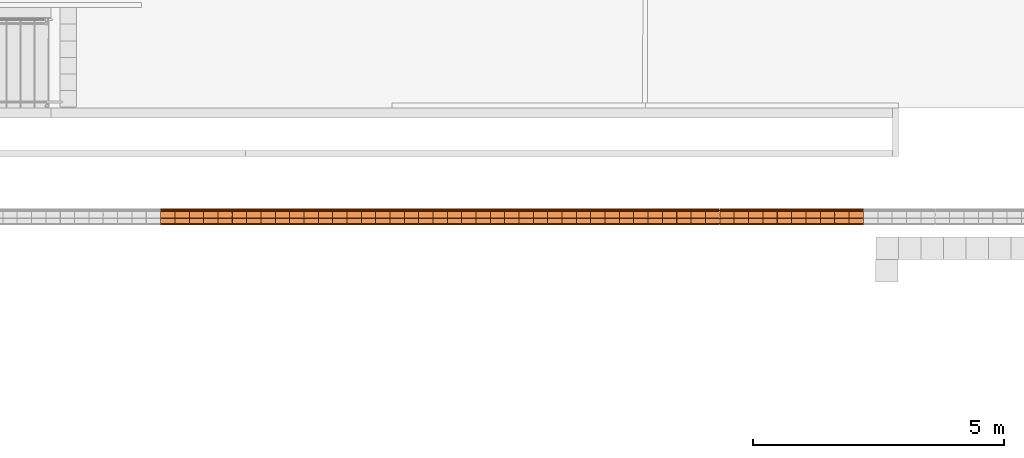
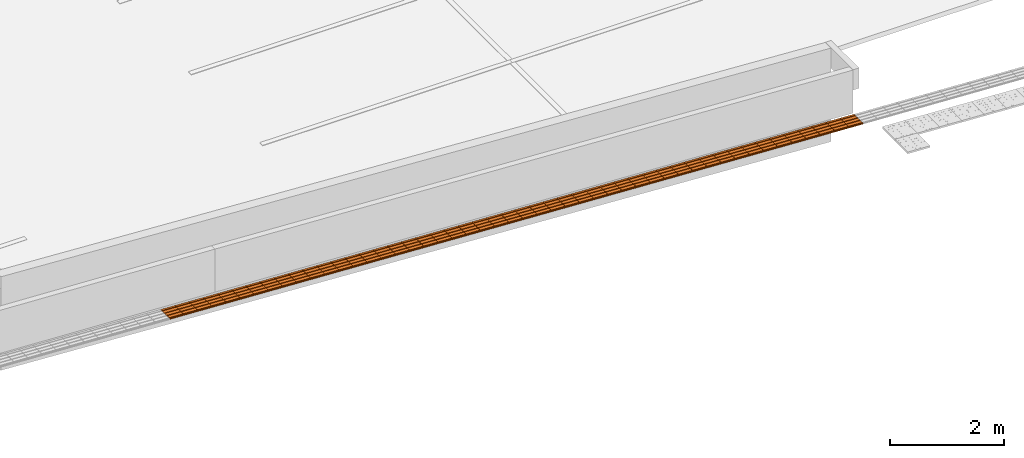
# One storey, part 187 of 237: 49 proxies.
"""IFC2X3 building model written with IfcOpenShell, lengths in millimetres."""

from ifc_helpers import new_model, entity, si_unit, converted_unit, derived_unit, money_unit, direction, frame, origin_with_axes, place, context, subcontext, project, spatial, open_shell, surface_model, source, transform, mapped, type_object, element, save


model = new_model("IFC2X3")

# Units and contexts
model_context = context("Model", 3, precision=0.01, world=origin_with_axes(), true_north=direction((0.0, 1.0)))
body_context = subcontext(model_context, "Body", "Model", "MODEL_VIEW")
ifc_project = project(units=[si_unit("LENGTHUNIT", "METRE", prefix="MILLI"), si_unit("AREAUNIT", "SQUARE_METRE"), si_unit("VOLUMEUNIT", "CUBIC_METRE"), converted_unit("PLANEANGLEUNIT", "DEGREE", entity("IfcPlaneAngleMeasure", 0.0174532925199), si_unit("PLANEANGLEUNIT", "RADIAN"), dimensions=[0, 0, 0, 0, 0, 0, 0]), money_unit("USD"), converted_unit("TIMEUNIT", "Year", entity("IfcTimeMeasure", 31556926.0), si_unit("TIMEUNIT", "SECOND"), dimensions=[0, 0, 1, 0, 0, 0, 0]), si_unit("MASSUNIT", "GRAM", prefix="KILO"), si_unit("THERMODYNAMICTEMPERATUREUNIT", "DEGREE_CELSIUS"), si_unit("LUMINOUSINTENSITYUNIT", "LUMEN"), si_unit("ENERGYUNIT", "JOULE", prefix="MEGA"), derived_unit("THERMALCONDUCTANCEUNIT", [(si_unit("POWERUNIT", "WATT"), 1), (si_unit("LENGTHUNIT", "METRE"), -1), (si_unit("THERMODYNAMICTEMPERATUREUNIT", "KELVIN"), -1)]), derived_unit("SPECIFICHEATCAPACITYUNIT", [(si_unit("ENERGYUNIT", "JOULE"), 1), (si_unit("MASSUNIT", "GRAM", prefix="KILO"), -1), (si_unit("THERMODYNAMICTEMPERATUREUNIT", "KELVIN"), -1)]), derived_unit("MASSDENSITYUNIT", [(si_unit("MASSUNIT", "GRAM", prefix="KILO"), 1), (si_unit("VOLUMEUNIT", "CUBIC_METRE"), -1)])], contexts=[model_context])

# Site, building, storey
site_placement = place(None, origin_with_axes())
site = spatial("IfcSite", under=ifc_project, at=site_placement, Name="Local", CompositionType="ELEMENT")
building_placement = place(site_placement, origin_with_axes())
building = spatial("IfcBuilding", under=site, at=building_placement, Name="Construção", CompositionType="ELEMENT")
storey_placement = place(building_placement, origin_with_axes())
storey = spatial("IfcBuildingStorey", under=building, at=storey_placement, Name="Pavimento Térreo", CompositionType="ELEMENT", Elevation=0.0)

# Proxies
building_element_proxy_type = type_object("IfcBuildingElementProxyType", Name="Piso Direcional 27", PredefinedType="NOTDEFINED")
shared_shape = source(origin_with_axes(), body_context, "Body", "SurfaceModel", [
    surface_model("IfcShellBasedSurfaceModel", [(-0.210134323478, -47.258225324, 4.02303628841), (285.108160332, -47.258225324, 18.9260007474), (284.760415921, -41.665004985, 25.5835917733), (-0.557878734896, -41.665004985, 10.6806273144)], [open_shell([[[0, 1, 2, 3]]])]),
    surface_model("IfcShellBasedSurfaceModel", [(285.803649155, -153.529411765, 5.61081869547), (285.803649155, 176.470588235, 5.61081869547), (285.108160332, 176.470588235, 18.9260007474), (285.108160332, 154.097706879, 18.9260007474), (284.760415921, 148.50448654, 25.5835917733), (284.760415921, 126.131605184, 25.5835917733), (285.108160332, 120.538384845, 18.9260007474), (285.108160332, 70.1994017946, 18.9260007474), (284.760415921, 64.6061814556, 25.5835917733), (284.760415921, 42.2333000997, 25.5835917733), (285.108160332, 36.6400797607, 18.9260007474), (285.108160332, -13.6989032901, 18.9260007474), (284.760415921, -19.2921236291, 25.5835917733), (284.760415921, -41.665004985, 25.5835917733), (285.108160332, -47.258225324, 18.9260007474), (285.108160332, -97.5972083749, 18.9260007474), (284.760415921, -103.190428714, 25.5835917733), (284.760415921, -125.56331007, 25.5835917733), (285.108160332, -131.156530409, 18.9260007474), (285.108160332, -153.529411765, 18.9260007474)], [open_shell([[[0, 1, 2, 3, 4, 5, 6, 7, 8, 9, 10, 11, 12, 13, 14, 15, 16, 17, 18, 19]]])]),
    surface_model("IfcShellBasedSurfaceModel", [(-0.557878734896, -19.2921236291, 10.6806273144), (284.760415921, -19.2921236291, 25.5835917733), (285.108160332, -13.6989032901, 18.9260007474), (-0.210134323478, -13.6989032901, 4.02303628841)], [open_shell([[[0, 1, 2, 3]]])]),
    surface_model("IfcShellBasedSurfaceModel", [(-0.557878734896, -103.190428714, 10.6806273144), (284.760415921, -103.190428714, 25.5835917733), (285.108160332, -97.5972083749, 18.9260007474), (-0.210134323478, -97.5972083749, 4.02303628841)], [open_shell([[[0, 1, 2, 3]]])]),
    surface_model("IfcShellBasedSurfaceModel", [(-0.557878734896, 64.6061814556, 10.6806273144), (284.760415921, 64.6061814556, 25.5835917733), (285.108160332, 70.1994017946, 18.9260007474), (-0.210134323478, 70.1994017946, 4.02303628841)], [open_shell([[[0, 1, 2, 3]]])]),
    surface_model("IfcShellBasedSurfaceModel", [(-0.210134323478, 36.6400797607, 4.02303628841), (285.108160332, 36.6400797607, 18.9260007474), (284.760415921, 42.2333000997, 25.5835917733), (-0.557878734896, 42.2333000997, 10.6806273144)], [open_shell([[[0, 1, 2, 3]]])]),
    surface_model("IfcShellBasedSurfaceModel", [(-0.210134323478, -131.156530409, 4.02303628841), (285.108160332, -131.156530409, 18.9260007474), (284.760415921, -125.56331007, 25.5835917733), (-0.557878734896, -125.56331007, 10.6806273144)], [open_shell([[[0, 1, 2, 3]]])]),
    surface_model("IfcShellBasedSurfaceModel", [(-0.210134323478, 176.470588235, 4.02303628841), (-0.210134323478, 154.097706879, 4.02303628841), (285.108160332, 154.097706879, 18.9260007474), (285.108160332, 176.470588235, 18.9260007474)], [open_shell([[[0, 1, 2, 3]]])]),
    surface_model("IfcShellBasedSurfaceModel", [(-0.210134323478, 120.538384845, 4.02303628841), (285.108160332, 120.538384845, 18.9260007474), (284.760415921, 126.131605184, 25.5835917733), (-0.557878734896, 126.131605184, 10.6806273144)], [open_shell([[[0, 1, 2, 3]]])]),
    surface_model("IfcShellBasedSurfaceModel", [(-0.557878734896, 148.50448654, 10.6806273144), (284.760415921, 148.50448654, 25.5835917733), (285.108160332, 154.097706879, 18.9260007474), (-0.210134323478, 154.097706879, 4.02303628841)], [open_shell([[[0, 1, 2, 3]]])]),
    surface_model("IfcShellBasedSurfaceModel", [(-0.210134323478, 36.6400797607, 4.02303628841), (-0.210134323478, -13.6989032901, 4.02303628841), (285.108160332, -13.6989032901, 18.9260007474), (285.108160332, 36.6400797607, 18.9260007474)], [open_shell([[[0, 1, 2, 3]]])]),
    surface_model("IfcShellBasedSurfaceModel", [(-0.210134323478, 120.538384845, 4.02303628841), (-0.210134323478, 70.1994017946, 4.02303628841), (285.108160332, 70.1994017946, 18.9260007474), (285.108160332, 120.538384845, 18.9260007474)], [open_shell([[[0, 1, 2, 3]]])]),
    surface_model("IfcShellBasedSurfaceModel", [(-0.557878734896, 148.50448654, 10.6806273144), (-0.557878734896, 126.131605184, 10.6806273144), (284.760415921, 126.131605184, 25.5835917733), (284.760415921, 148.50448654, 25.5835917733)], [open_shell([[[0, 1, 2, 3]]])]),
    surface_model("IfcShellBasedSurfaceModel", [(-0.210134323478, 120.538384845, 4.02303628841), (-0.557878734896, 126.131605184, 10.6806273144), (-0.557878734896, 148.50448654, 10.6806273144), (-0.210134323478, 154.097706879, 4.02303628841), (-0.210134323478, 176.470588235, 4.02303628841), (0.48535449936, 176.470588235, -9.29214576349), (0.48535449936, -153.529411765, -9.29214576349), (-0.210134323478, -153.529411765, 4.02303628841), (-0.210134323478, -131.156530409, 4.02303628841), (-0.557878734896, -125.56331007, 10.6806273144), (-0.557878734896, -103.190428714, 10.6806273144), (-0.210134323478, -97.5972083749, 4.02303628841), (-0.210134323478, -47.258225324, 4.02303628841), (-0.557878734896, -41.665004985, 10.6806273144), (-0.557878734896, -19.2921236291, 10.6806273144), (-0.210134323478, -13.6989032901, 4.02303628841), (-0.210134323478, 36.6400797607, 4.02303628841), (-0.557878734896, 42.2333000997, 10.6806273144), (-0.557878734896, 64.6061814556, 10.6806273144), (-0.210134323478, 70.1994017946, 4.02303628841)], [open_shell([[[0, 1, 2, 3, 4, 5, 6, 7, 8, 9, 10, 11, 12, 13, 14, 15, 16, 17, 18, 19]]])]),
    surface_model("IfcShellBasedSurfaceModel", [(284.760415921, -41.665004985, 25.5835917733), (284.760415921, -19.2921236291, 25.5835917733), (-0.557878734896, -19.2921236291, 10.6806273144), (-0.557878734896, -41.665004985, 10.6806273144)], [open_shell([[[0, 1, 2, 3]]])]),
    surface_model("IfcShellBasedSurfaceModel", [(-0.210134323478, -47.258225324, 4.02303628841), (-0.210134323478, -97.5972083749, 4.02303628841), (285.108160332, -97.5972083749, 18.9260007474), (285.108160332, -47.258225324, 18.9260007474)], [open_shell([[[0, 1, 2, 3]]])]),
    surface_model("IfcShellBasedSurfaceModel", [(284.760415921, 42.2333000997, 25.5835917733), (284.760415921, 64.6061814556, 25.5835917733), (-0.557878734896, 64.6061814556, 10.6806273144), (-0.557878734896, 42.2333000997, 10.6806273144)], [open_shell([[[0, 1, 2, 3]]])]),
    surface_model("IfcShellBasedSurfaceModel", [(284.760415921, -125.56331007, 25.5835917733), (284.760415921, -103.190428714, 25.5835917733), (-0.557878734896, -103.190428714, 10.6806273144), (-0.557878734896, -125.56331007, 10.6806273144)], [open_shell([[[0, 1, 2, 3]]])]),
    surface_model("IfcShellBasedSurfaceModel", [(285.803649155, 176.470588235, 5.61081869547), (0.48535449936, 176.470588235, -9.29214576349), (-0.210134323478, 176.470588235, 4.02303628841), (285.108160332, 176.470588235, 18.9260007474)], [open_shell([[[0, 1, 2, 3]]])]),
    surface_model("IfcShellBasedSurfaceModel", [(285.803649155, -153.529411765, 5.61081869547), (0.48535449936, -153.529411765, -9.29214576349), (0.48535449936, 176.470588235, -9.29214576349), (285.803649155, 176.470588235, 5.61081869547)], [open_shell([[[0, 1, 2, 3]]])]),
    surface_model("IfcShellBasedSurfaceModel", [(285.108160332, -153.529411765, 18.9260007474), (285.108160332, -131.156530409, 18.9260007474), (-0.210134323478, -131.156530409, 4.02303628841), (-0.210134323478, -153.529411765, 4.02303628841)], [open_shell([[[0, 1, 2, 3]]])]),
    surface_model("IfcShellBasedSurfaceModel", [(0.48535449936, -153.529411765, -9.29214576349), (285.803649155, -153.529411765, 5.61081869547), (285.108160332, -153.529411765, 18.9260007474), (-0.210134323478, -153.529411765, 4.02303628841)], [open_shell([[[0, 1, 2, 3]]])]),
])
for number, where, z_axis, x_axis, name in (
    (1, (109852.517483, 10834.0941893, -6682.10206733), (0.0, 0.0, 1.0), (-1.0, 0.0, 0.0), "Objeto-0055"),
    (2, (110424.721409, 10834.0941893, -6711.98986256), (0.0, 0.0, 1.0), (-1.0, 0.0, 0.0), "Objeto-0055"),
    (3, (110138.619446, 10834.0941893, -6697.04596494), (0.0, 0.0, 1.0), (-1.0, 0.0, 0.0), "Objeto-0055"),
    (4, (108136.689375, 10834.0941893, -6592.47961478), (0.0, 0.0, 1.0), (-1.0, 0.0, 0.0), "Objeto-0055"),
    (5, (106134.759303, 10834.0941893, -6487.91326462), (0.0, 0.0, 1.0), (-1.0, 0.0, 0.0), "Objeto-0055"),
    (6, (107564.485449, 10834.0941893, -6562.59181955), (0.0, 0.0, 1.0), (-1.0, 0.0, 0.0), "Objeto-0055"),
    (7, (107850.587412, 10834.0941893, -6577.53571717), (0.0, 0.0, 1.0), (-1.0, 0.0, 0.0), "Objeto-0055"),
    (8, (106992.281523, 10834.0941893, -6532.70402431), (0.0, 0.0, 1.0), (-1.0, 0.0, 0.0), "Objeto-0055"),
    (9, (107278.383486, 10834.0941893, -6547.64792193), (0.0, 0.0, 1.0), (-1.0, 0.0, 0.0), "Objeto-0055"),
    (10, (106706.963229, 10834.0941893, -6517.80105986), (0.0, 0.0, 1.0), (-1.0, 0.0, 0.0), "Objeto-0055"),
    (11, (106420.861266, 10834.0941893, -6502.85716224), (0.0, 0.0, 1.0), (-1.0, 0.0, 0.0), "Objeto-0055"),
    (12, (109281.097226, 10834.0941893, -6652.25520525), (0.0, 0.0, 1.0), (-1.0, 0.0, 0.0), "Objeto-0055"),
    (13, (108994.995263, 10834.0941893, -6637.31130763), (0.0, 0.0, 1.0), (-1.0, 0.0, 0.0), "Objeto-0055"),
    (14, (108708.8933, 10834.0941893, -6622.36741002), (0.0, 0.0, 1.0), (-1.0, 0.0, 0.0), "Objeto-0055"),
    (15, (108422.791337, 10834.0941893, -6607.4235124), (0.0, 0.0, 1.0), (-1.0, 0.0, 0.0), "Objeto-0055"),
    (16, (109566.41552, 10834.0941893, -6667.15816971), (0.0, 0.0, 1.0), (-1.0, 0.0, 0.0), "Objeto-0055"),
    (17, (119869.544652, 10834.0941893, -7205.31912938), (0.0, 0.0, 1.0), (-1.0, 0.0, 0.0), "Objeto-0055"),
    (18, (119582.940109, 10834.0941893, -7190.34898059), (0.0, 0.0, 1.0), (-1.0, 0.0, 0.0), "Objeto-0055"),
    (19, (119296.335565, 10834.0941893, -7175.37883179), (0.0, 0.0, 1.0), (-1.0, 0.0, 0.0), "Objeto-0055"),
    (20, (119009.731022, 10834.0941893, -7160.408683), (0.0, 0.0, 1.0), (-1.0, 0.0, 0.0), "Objeto-0055"),
    (21, (118723.126478, 10834.0941893, -7145.43853421), (0.0, 0.0, 1.0), (-1.0, 0.0, 0.0), "Objeto-0055"),
    (22, (118436.521935, 10834.0941893, -7130.46838541), (0.0, 0.0, 1.0), (-1.0, 0.0, 0.0), "Objeto-0055"),
    (23, (118149.917391, 10834.0941893, -7115.49823662), (0.0, 0.0, 1.0), (-1.0, 0.0, 0.0), "Objeto-0055"),
    (24, (117863.312848, 10834.0941893, -7100.52808782), (0.0, 0.0, 1.0), (-1.0, 0.0, 0.0), "Objeto-0055"),
    (25, (117576.708304, 10834.0941893, -7085.55793903), (0.0, 0.0, 1.0), (-1.0, 0.0, 0.0), "Objeto-0055"),
    (26, (117290.103761, 10834.0941893, -7070.58779023), (0.0, 0.0, 1.0), (-1.0, 0.0, 0.0), "Objeto-0055"),
    (27, (117003.499218, 10834.0941893, -7055.61764144), (0.0, 0.0, 1.0), (-1.0, 0.0, 0.0), "Objeto-0055"),
    (28, (116717.397255, 10834.0941893, -7040.67374382), (0.0, 0.0, 1.0), (-1.0, 0.0, 0.0), "Objeto-0055"),
    (29, (116431.295292, 10834.0941893, -7025.7298462), (0.0, 0.0, 1.0), (-1.0, 0.0, 0.0), "Objeto-0055"),
    (30, (115859.091366, 10834.0941893, -6995.84205097), (0.0, 0.0, 1.0), (-1.0, 0.0, 0.0), "Objeto-0055"),
    (31, (116145.193329, 10834.0941893, -7010.78594859), (0.0, 0.0, 1.0), (-1.0, 0.0, 0.0), "Objeto-0055"),
    (32, (115572.989403, 10834.0941893, -6980.89815335), (0.0, 0.0, 1.0), (-1.0, 0.0, 0.0), "Objeto-0055"),
    (33, (115286.887441, 10834.0941893, -6965.95425574), (0.0, 0.0, 1.0), (-1.0, 0.0, 0.0), "Objeto-0055"),
    (34, (115000.785478, 10834.0941893, -6951.01035812), (0.0, 0.0, 1.0), (-1.0, 0.0, 0.0), "Objeto-0055"),
    (35, (114714.683515, 10834.0941893, -6936.0664605), (0.0, 0.0, 1.0), (-1.0, 0.0, 0.0), "Objeto-0055"),
    (36, (114429.36522, 10834.0941893, -6921.16349604), (0.0, 0.0, 1.0), (-1.0, 0.0, 0.0), "Objeto-0055"),
    (37, (114143.263258, 10834.0941893, -6906.21959843), (0.0, 0.0, 1.0), (-1.0, 0.0, 0.0), "Objeto-0055"),
    (38, (113857.161295, 10834.0941893, -6891.27570081), (0.0, 0.0, 1.0), (-1.0, 0.0, 0.0), "Objeto-0055"),
    (39, (113571.059332, 10834.0941893, -6876.33180319), (0.0, 0.0, 1.0), (-1.0, 0.0, 0.0), "Objeto-0055"),
    (40, (113284.957369, 10834.0941893, -6861.38790557), (0.0, 0.0, 1.0), (-1.0, 0.0, 0.0), "Objeto-0055"),
    (41, (112998.855406, 10834.0941893, -6846.44400796), (0.0, 0.0, 1.0), (-1.0, 0.0, 0.0), "Objeto-0055"),
    (42, (112712.753443, 10834.0941893, -6831.50011034), (0.0, 0.0, 1.0), (-1.0, 0.0, 0.0), "Objeto-0055"),
    (43, (112426.651481, 10834.0941893, -6816.55621272), (0.0, 0.0, 1.0), (-1.0, 0.0, 0.0), "Objeto-0055"),
    (44, (112140.549518, 10834.0941893, -6801.61231511), (0.0, 0.0, 1.0), (-1.0, 0.0, 0.0), "Objeto-0055"),
    (45, (111855.231223, 10834.0941893, -6786.70935065), (0.0, 0.0, 1.0), (-1.0, 0.0, 0.0), "Objeto-0055"),
    (46, (111569.12926, 10834.0941893, -6771.76545303), (0.0, 0.0, 1.0), (-1.0, 0.0, 0.0), "Objeto-0055"),
    (47, (111283.027297, 10834.0941893, -6756.82155541), (0.0, 0.0, 1.0), (-1.0, 0.0, 0.0), "Objeto-0055"),
    (48, (110996.925335, 10834.0941893, -6741.8776578), (0.0, 0.0, 1.0), (-1.0, 0.0, 0.0), "Objeto-0055"),
    (49, (110710.823372, 10834.0941893, -6726.93376018), (0.0, 0.0, 1.0), (-1.0, 0.0, 0.0), "Objeto-0055"),
):
    element("IfcBuildingElementProxy", number, at=place(storey_placement, frame(where, z_axis=z_axis, x_axis=x_axis)), inside=storey, type_object=building_element_proxy_type, Name=name, context=body_context, shape_type="MappedRepresentation", body=[
        mapped(shared_shape, transform((0.0, 0.0, 0.0))),
    ])

save(model, "model.ifc")
